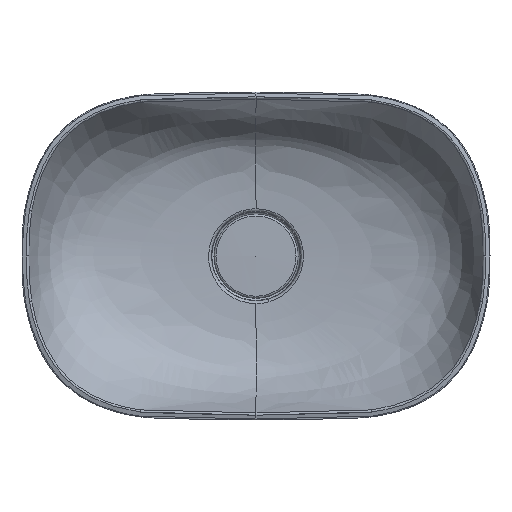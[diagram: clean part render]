
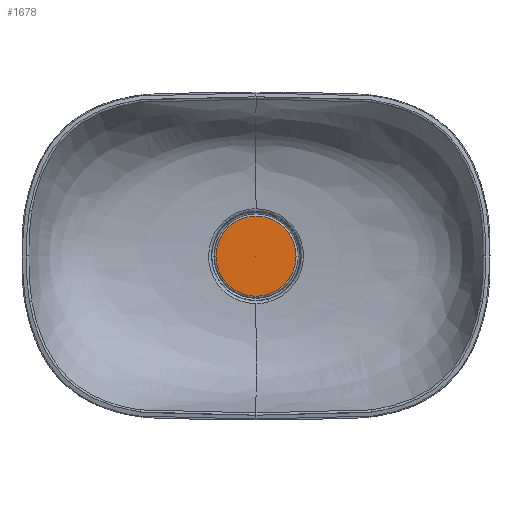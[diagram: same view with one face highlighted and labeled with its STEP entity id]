
A CAD part, top view. The second image highlights one B-rep face of the part: STEP entity #1678.
In plain terms, the highlighted spherical face has radius 2006.44 mm.
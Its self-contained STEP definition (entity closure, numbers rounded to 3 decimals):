
#232=SPHERICAL_SURFACE('',#1805,2006.442);
#336=FACE_OUTER_BOUND('',#440,.T.);
#440=EDGE_LOOP('',(#1124,#1125,#1126,#1127,#1128));
#547=CIRCLE('',#1799,42.867);
#548=CIRCLE('',#1800,42.867);
#549=CIRCLE('',#1801,42.867);
#552=CIRCLE('',#1806,2006.442);
#653=VERTEX_POINT('',#2284);
#654=VERTEX_POINT('',#2286);
#655=VERTEX_POINT('',#2288);
#658=VERTEX_POINT('',#2298);
#834=EDGE_CURVE('',#654,#653,#547,.T.);
#835=EDGE_CURVE('',#655,#654,#548,.T.);
#836=EDGE_CURVE('',#653,#655,#549,.T.);
#840=EDGE_CURVE('',#658,#654,#552,.T.);
#1124=ORIENTED_EDGE('',*,*,#835,.T.);
#1125=ORIENTED_EDGE('',*,*,#840,.F.);
#1126=ORIENTED_EDGE('',*,*,#840,.T.);
#1127=ORIENTED_EDGE('',*,*,#834,.T.);
#1128=ORIENTED_EDGE('',*,*,#836,.T.);
#1678=ADVANCED_FACE('',(#336),#232,.T.);
#1799=AXIS2_PLACEMENT_3D('',#2287,#1951,#1952);
#1800=AXIS2_PLACEMENT_3D('',#2289,#1953,#1954);
#1801=AXIS2_PLACEMENT_3D('',#2290,#1955,#1956);
#1805=AXIS2_PLACEMENT_3D('',#2297,#1964,#1965);
#1806=AXIS2_PLACEMENT_3D('',#2299,#1966,#1967);
#1951=DIRECTION('center_axis',(0.,0.,1.));
#1952=DIRECTION('ref_axis',(0.,1.,0.));
#1953=DIRECTION('center_axis',(0.,0.,1.));
#1954=DIRECTION('ref_axis',(0.,1.,0.));
#1955=DIRECTION('center_axis',(0.,0.,1.));
#1956=DIRECTION('ref_axis',(0.,1.,0.));
#1964=DIRECTION('center_axis',(0.,0.,
1.));
#1965=DIRECTION('ref_axis',(1.,0.,0.));
#1966=DIRECTION('center_axis',(0.,-1.,0.));
#1967=DIRECTION('ref_axis',(-1.,0.,0.));
#2284=CARTESIAN_POINT('',(0.,-83.867,41.042));
#2286=CARTESIAN_POINT('',(-42.867,-41.,41.042));
#2287=CARTESIAN_POINT('Origin',(0.,-41.,41.042));
#2288=CARTESIAN_POINT('',(0.,1.867,41.042));
#2289=CARTESIAN_POINT('Origin',(0.,-41.,41.042));
#2290=CARTESIAN_POINT('Origin',(0.,-41.,41.042));
#2297=CARTESIAN_POINT('Origin',(0.,-41.,-1964.942));
#2298=CARTESIAN_POINT('',(0.,-41.,41.5));
#2299=CARTESIAN_POINT('Origin',(0.,-41.,-1964.942));
